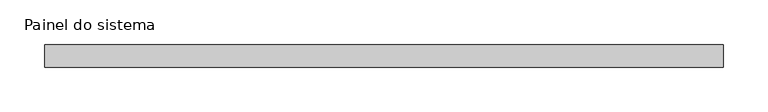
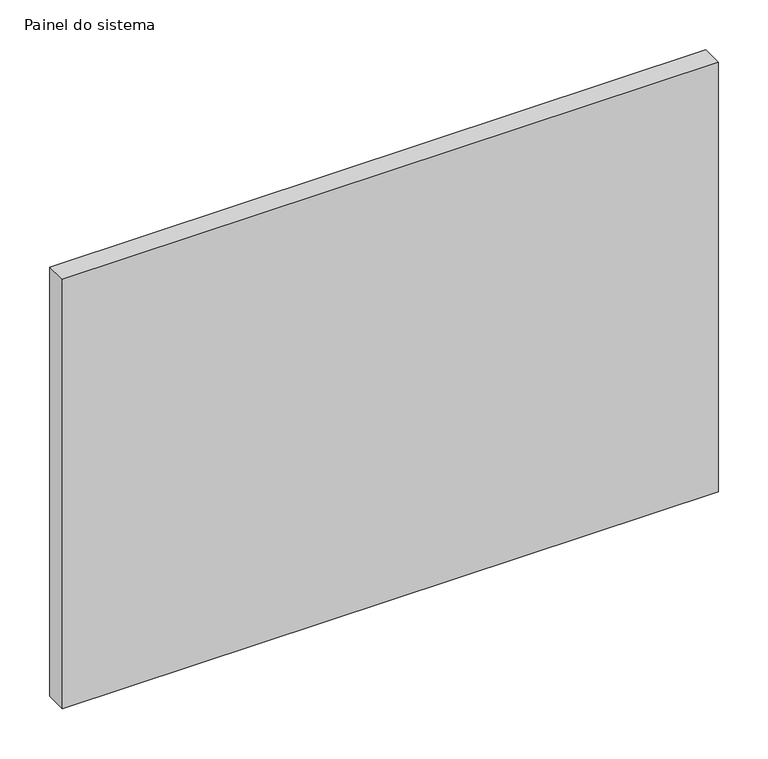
"""IFC4 building model written with IfcOpenShell, lengths in millimetres: plate geometry, Painel do sistema : Envidraçado."""

from ifc_helpers import new_model, si_unit, origin, origin_with_axes, place, context, project, spatial, polyline, outline, extrude, source, transform, mapped, element, save


def painel_do_sistema_6a5e8888(model_context):
    return source(origin(), model_context, "Body", "SweptSolid", [
        extrude(outline(polyline([(379.15, 24.5), (-379.15, 24.5), (-379.15, 49.5), (379.15, 49.5), (379.15, 24.5)])), origin_with_axes(), (0.0, 0.0, 1.0), 525.0),
    ])


if __name__ == "__main__":
    model = new_model("IFC4")
    model_context = context("Model", 3, world=origin())
    ifc_project = project(units=[si_unit("LENGTHUNIT", "METRE", prefix="MILLI")], contexts=[model_context])
    site = spatial("IfcSite", under=ifc_project)
    building = spatial("IfcBuilding", under=site)
    placement = place(None, origin())
    painel_do_sistema_shape = painel_do_sistema_6a5e8888(model_context)
    element("IfcPlate", 1, ObjectType="Painel do sistema : Envidraçado", at=placement, inside=building, context=model_context, shape_type="MappedRepresentation", body=[
        mapped(painel_do_sistema_shape, transform((0.0, 0.0, 0.0), x_axis=(1.0, 0.0, 0.0), y_axis=(0.0, 1.0, 0.0), z_axis=(0.0, 0.0, 1.0))),
    ])
    save(model, "model.ifc")
